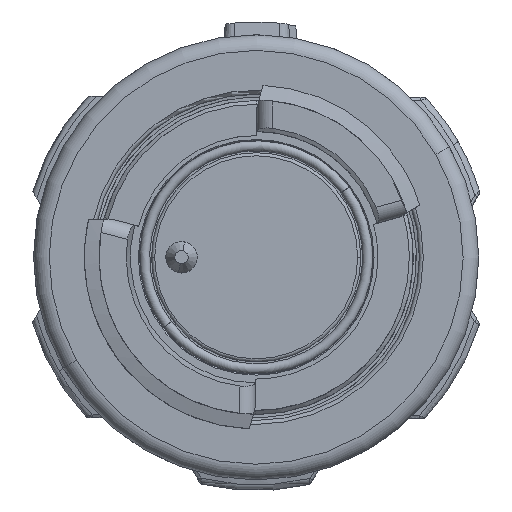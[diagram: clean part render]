
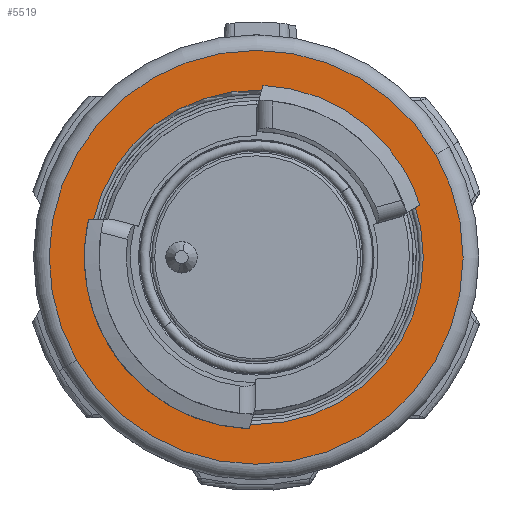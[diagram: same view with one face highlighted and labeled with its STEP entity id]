
A CAD part, top view. The second image highlights one B-rep face of the part: STEP entity #5519.
In plain terms, the highlighted planar face has unit normal (0, 0, 1).
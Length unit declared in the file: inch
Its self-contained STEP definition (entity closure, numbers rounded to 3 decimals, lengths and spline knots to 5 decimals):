
#223 = EDGE_CURVE ( 'NONE', #38623, #35343, #9309, .T. ) ;
#613 = DIRECTION ( 'NONE',  ( 0., 0., 1. ) ) ;
#682 = CARTESIAN_POINT ( 'NONE',  ( -0.44986, -0.25783, -0.26772 ) ) ;
#693 = CARTESIAN_POINT ( 'NONE',  ( -0.40611, -0.10191, -0.26772 ) ) ;
#799 = EDGE_CURVE ( 'NONE', #38623, #11658, #7047, .T. ) ;
#810 = CARTESIAN_POINT ( 'NONE',  ( 0., 0., -0.26772 ) ) ;
#2061 = DIRECTION ( 'NONE',  ( 0., 0., 1. ) ) ;
#2073 = VERTEX_POINT ( 'NONE', #13698 ) ;
#2183 = EDGE_CURVE ( 'NONE', #37547, #21155, #20467, .T. ) ;
#2215 = PLANE ( 'NONE',  #20681 ) ;
#2371 = EDGE_CURVE ( 'NONE', #11658, #18412, #30723, .T. ) ;
#2686 = ORIENTED_EDGE ( 'NONE', *, *, #2183, .T. ) ;
#2989 = VECTOR ( 'NONE', #15795, 39.37008 ) ;
#3133 = AXIS2_PLACEMENT_3D ( 'NONE', #810, #613, #12986 ) ;
#3602 = EDGE_LOOP ( 'NONE', ( #6225, #21706, #12086, #19789, #16798, #27159 ) ) ;
#4428 = DIRECTION ( 'NONE',  ( 0.868, 0.497, 0. ) ) ;
#5164 = CARTESIAN_POINT ( 'NONE',  ( 0.36327, 0.2082, -0.26772 ) ) ;
#5205 = FACE_BOUND ( 'NONE', #3602, .T. ) ;
#5447 = CARTESIAN_POINT ( 'NONE',  ( 0., 0., -0.26772 ) ) ;
#5519 = ADVANCED_FACE ( 'NONE', ( #34796, #5205 ), #2215, .T. ) ;
#6225 = ORIENTED_EDGE ( 'NONE', *, *, #799, .F. ) ;
#6428 = CIRCLE ( 'NONE', #30665, 0.5185 ) ;
#7047 = CIRCLE ( 'NONE', #7662, 0.4187 ) ;
#7662 = AXIS2_PLACEMENT_3D ( 'NONE', #37599, #19965, #22381 ) ;
#9030 = CARTESIAN_POINT ( 'NONE',  ( -0.36327, -0.2082, -0.26772 ) ) ;
#9229 = EDGE_LOOP ( 'NONE', ( #2686, #19742 ) ) ;
#9309 = B_SPLINE_CURVE_WITH_KNOTS ( 'NONE', 3,
 ( #31459, #37699, #37115, #9723 ),
 .UNSPECIFIED., .F., .F.,
 ( 4, 4 ),
 ( 0.00294, 0.00342 ),
 .UNSPECIFIED. ) ;
#9723 = CARTESIAN_POINT ( 'NONE',  ( -0.41429, -0.08484, -0.26772 ) ) ;
#9807 = CARTESIAN_POINT ( 'NONE',  ( -0.41206, 0.09508, -0.26772 ) ) ;
#10647 = DIRECTION ( 'NONE',  ( 0., 0., 1. ) ) ;
#10873 = CARTESIAN_POINT ( 'NONE',  ( -0.41429, -0.08484, -0.26772 ) ) ;
#11658 = VERTEX_POINT ( 'NONE', #9030 ) ;
#12086 = ORIENTED_EDGE ( 'NONE', *, *, #19818, .F. ) ;
#12229 = AXIS2_PLACEMENT_3D ( 'NONE', #16835, #10647, #37852 ) ;
#12986 = DIRECTION ( 'NONE',  ( 0., -1., 0. ) ) ;
#13698 = CARTESIAN_POINT ( 'NONE',  ( -0.40776, 0.0951, -0.26772 ) ) ;
#15795 = DIRECTION ( 'NONE',  ( -1., -0.004, 0. ) ) ;
#15910 = CIRCLE ( 'NONE', #20998, 0.4187 ) ;
#16798 = ORIENTED_EDGE ( 'NONE', *, *, #35063, .F. ) ;
#16835 = CARTESIAN_POINT ( 'NONE',  ( 0., 0., -0.26772 ) ) ;
#17583 = CARTESIAN_POINT ( 'NONE',  ( 0.44986, 0.25783, -0.26772 ) ) ;
#18412 = VERTEX_POINT ( 'NONE', #5164 ) ;
#19573 = EDGE_CURVE ( 'NONE', #21155, #37547, #6428, .T. ) ;
#19742 = ORIENTED_EDGE ( 'NONE', *, *, #19573, .T. ) ;
#19789 = ORIENTED_EDGE ( 'NONE', *, *, #39368, .F. ) ;
#19818 = EDGE_CURVE ( 'NONE', #39349, #35343, #36427, .T. ) ;
#19831 = DIRECTION ( 'NONE',  ( 0., 0., 1. ) ) ;
#19965 = DIRECTION ( 'NONE',  ( 0., 0., 1. ) ) ;
#20467 = CIRCLE ( 'NONE', #24934, 0.5185 ) ;
#20681 = AXIS2_PLACEMENT_3D ( 'NONE', #31811, #19831, #4428 ) ;
#20998 = AXIS2_PLACEMENT_3D ( 'NONE', #26458, #35661, #35865 ) ;
#21155 = VERTEX_POINT ( 'NONE', #682 ) ;
#21706 = ORIENTED_EDGE ( 'NONE', *, *, #223, .T. ) ;
#22381 = DIRECTION ( 'NONE',  ( 0.868, 0.497, 0. ) ) ;
#24934 = AXIS2_PLACEMENT_3D ( 'NONE', #5447, #2061, #30205 ) ;
#24961 = LINE ( 'NONE', #30960, #2989 ) ;
#25969 = DIRECTION ( 'NONE',  ( 0.868, 0.497, 0. ) ) ;
#26164 = DIRECTION ( 'NONE',  ( 0., 0., 1. ) ) ;
#26458 = CARTESIAN_POINT ( 'NONE',  ( 0., 0., -0.26772 ) ) ;
#27159 = ORIENTED_EDGE ( 'NONE', *, *, #2371, .F. ) ;
#28038 = CARTESIAN_POINT ( 'NONE',  ( 0., 0., -0.26772 ) ) ;
#30205 = DIRECTION ( 'NONE',  ( 0.868, 0.497, 0. ) ) ;
#30665 = AXIS2_PLACEMENT_3D ( 'NONE', #28038, #26164, #25969 ) ;
#30723 = CIRCLE ( 'NONE', #12229, 0.4187 ) ;
#30960 = CARTESIAN_POINT ( 'NONE',  ( -0.36167, 0.09529, -0.26772 ) ) ;
#31459 = CARTESIAN_POINT ( 'NONE',  ( -0.40611, -0.10191, -0.26772 ) ) ;
#31811 = CARTESIAN_POINT ( 'NONE',  ( 0., 0., -0.26772 ) ) ;
#34796 = FACE_OUTER_BOUND ( 'NONE', #9229, .T. ) ;
#35063 = EDGE_CURVE ( 'NONE', #18412, #2073, #15910, .T. ) ;
#35343 = VERTEX_POINT ( 'NONE', #10873 ) ;
#35661 = DIRECTION ( 'NONE',  ( 0., 0., 1. ) ) ;
#35865 = DIRECTION ( 'NONE',  ( 0.868, 0.497, 0. ) ) ;
#36427 = CIRCLE ( 'NONE', #3133, 0.42289 ) ;
#37115 = CARTESIAN_POINT ( 'NONE',  ( -0.41169, -0.09059, -0.26772 ) ) ;
#37547 = VERTEX_POINT ( 'NONE', #17583 ) ;
#37599 = CARTESIAN_POINT ( 'NONE',  ( 0., 0., -0.26772 ) ) ;
#37699 = CARTESIAN_POINT ( 'NONE',  ( -0.40896, -0.09628, -0.26772 ) ) ;
#37852 = DIRECTION ( 'NONE',  ( 0.868, 0.497, 0. ) ) ;
#38623 = VERTEX_POINT ( 'NONE', #693 ) ;
#39349 = VERTEX_POINT ( 'NONE', #9807 ) ;
#39368 = EDGE_CURVE ( 'NONE', #2073, #39349, #24961, .T. ) ;
